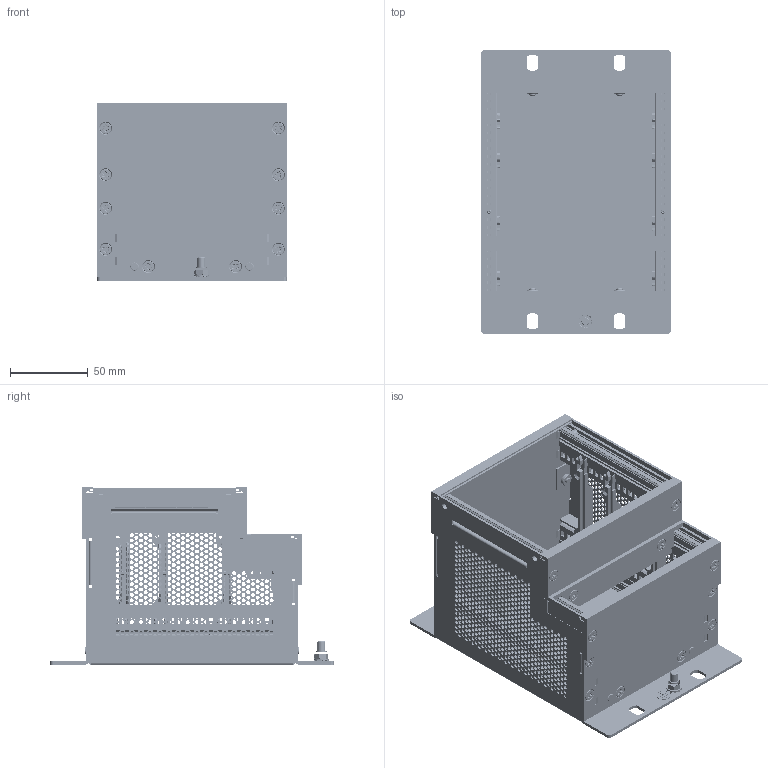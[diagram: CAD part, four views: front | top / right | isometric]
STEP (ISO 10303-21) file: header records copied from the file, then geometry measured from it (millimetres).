
FILE_DESCRIPTION(/* description */ (''),/* implementation_level */ '2;1');
FILE_NAME(/* name */ '\\deif.com\files\dok_dat\00arbdir\01_Customer files created by request\IO-Bar\R6.4\R6.4_20220912.stp',/* time_stamp */ '2022-09-12T13:24:02+02:00',/* author */ ('JDI'),/* organization */ (''),/* preprocessor_version */ 'ST-DEVELOPER v18.1',/* originating_system */ 'Autodesk Inventor 2022',/* authorisation */ '');
FILE_SCHEMA (('AUTOMOTIVE_DESIGN { 1 0 10303 214 3 1 1 }'));
Products named in the file (1): R6.4_20210303_Simplify_1
Bounding box: 122 x 182.4 x 113.9 mm (x, y, z)
Volume: 226475.4 mm3; surface area: 254014.2 mm2
Topology: 1 solids, 1 shells, 9165 faces, 24771 edges, 15167 vertices
Faces by surface type: cylinder 3897, plane 3888, bspline 484, sphere 418, torus 298, cone 180
Full cylindrical faces by diameter (mm): 2.5 x1325, 2.7 x2, 3.3 x2, 4 x22, 4.5 x6, 4.7 x6, 5 x1, 5.4 x2, 5.8 x8, 6.45 x6, 6.8 x1, 7.4 x22, 7.9 x6, 8.2 x14, 8.3 x6, 9 x1, 9.8 x1, 10 x1
Entity records: 311791 total; most frequent: CARTESIAN_POINT 63943, DIRECTION 50420, ORIENTED_EDGE 49266, EDGE_CURVE 24633, AXIS2_PLACEMENT_3D 17851, VERTEX_POINT 15167, LINE 14718, VECTOR 14718
